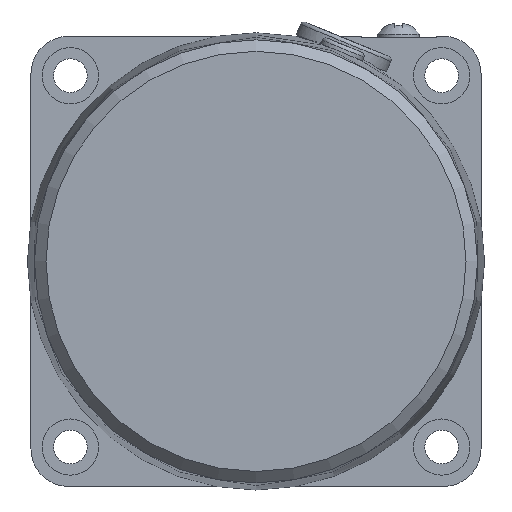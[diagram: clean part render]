
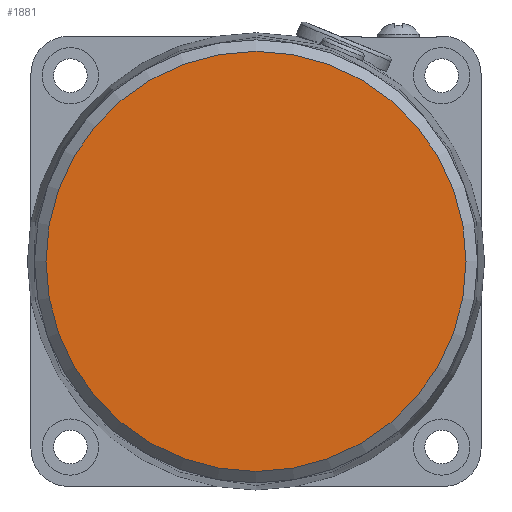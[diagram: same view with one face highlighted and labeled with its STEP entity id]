
A CAD part, left-side view. The second image highlights one B-rep face of the part: STEP entity #1881.
In plain terms, the highlighted planar face has unit normal (-1, 0, 0).
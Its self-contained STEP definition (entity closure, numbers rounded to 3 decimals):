
#288=PLANE('',#2008);
#441=FACE_OUTER_BOUND('',#565,.T.);
#565=EDGE_LOOP('',(#1255));
#715=CIRCLE('',#2009,28.);
#811=VERTEX_POINT('',#2917);
#991=EDGE_CURVE('',#811,#811,#715,.T.);
#1255=ORIENTED_EDGE('',*,*,#991,.F.);
#1881=ADVANCED_FACE('',(#441),#288,.F.);
#2008=AXIS2_PLACEMENT_3D('',#2916,#2234,#2235);
#2009=AXIS2_PLACEMENT_3D('',#2918,#2236,#2237);
#2234=DIRECTION('center_axis',(1.,0.,0.));
#2235=DIRECTION('ref_axis',(0.,0.,-1.));
#2236=DIRECTION('center_axis',(1.,0.,0.));
#2237=DIRECTION('ref_axis',(0.,0.,
-1.));
#2916=CARTESIAN_POINT('Origin',(-36.5,0.,0.));
#2917=CARTESIAN_POINT('',(-36.5,0.,28.));
#2918=CARTESIAN_POINT('Origin',(-36.5,0.,0.));
